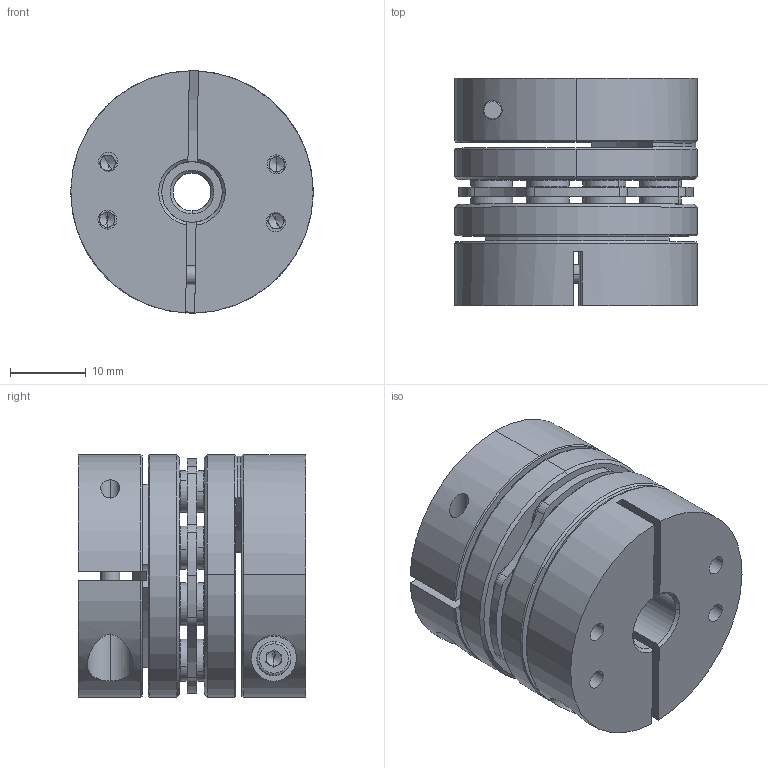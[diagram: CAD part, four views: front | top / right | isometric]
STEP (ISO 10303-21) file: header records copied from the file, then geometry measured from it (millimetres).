
FILE_DESCRIPTION (( 'STEP AP203' ), '1' );
FILE_NAME ('LDG-32-B1-5-8.STEP', '2021-10-28T05:02:44', ( '' ), ( '' ), 'SwSTEP 2.0', 'SolidWorks 2018', '' );
FILE_SCHEMA (( 'CONFIG_CONTROL_DESIGN' ));
Length unit declared in the file: millimetre
Products named in the file (2): 錨璃5^LDG-32蚾饜芞1; LDG-32-B1-5-8
Assembly tree (1 placements, depth 2):
  LDG-32-B1-5-8
    錨璃5^LDG-32蚾饜芞1
Bounding box: 32 x 30 x 32 mm (x, y, z)
Volume: 18871.1 mm3; surface area: 13371.3 mm2
Topology: 1 solids, 11 shells, 795 faces, 1967 edges, 1216 vertices
Faces by surface type: cylinder 301, plane 244, cone 230, torus 20
Entity records: 24193 total; most frequent: CARTESIAN_POINT 4474, DIRECTION 4465, ORIENTED_EDGE 3878, EDGE_CURVE 1939, AXIS2_PLACEMENT_3D 1819, VERTEX_POINT 1216, CIRCLE 1020, EDGE_LOOP 939
